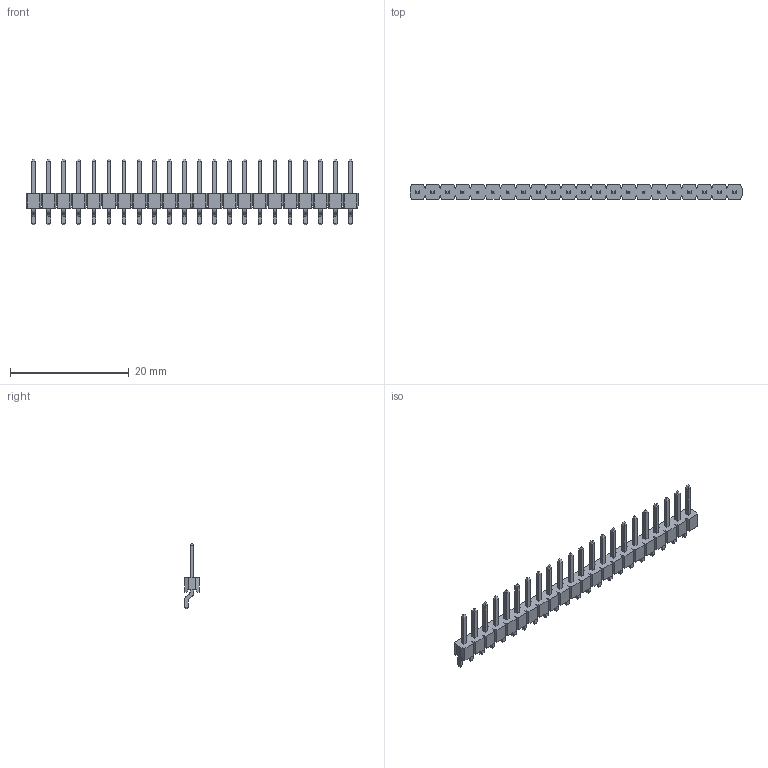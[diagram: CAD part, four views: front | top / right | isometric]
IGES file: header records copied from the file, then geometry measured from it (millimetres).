
Global section: file name: N:\ESD\Matthias\GolfVI\2184\UG files\Part Family\961122-5500-XX-XX.igs; native system: NX V5.0; preprocessor: UGS NX IGES V5.0; date: 20080611.131307; units: millimetre
Bounding box: 55.88 x 2.5 x 11.1 mm (x, y, z)
Surface area: 1168.9 mm2 (no closed solid volume)
Topology: 0 solids, 0 shells, 796 faces, 4149 edges, 4149 vertices
Faces by surface type: bspline 796
